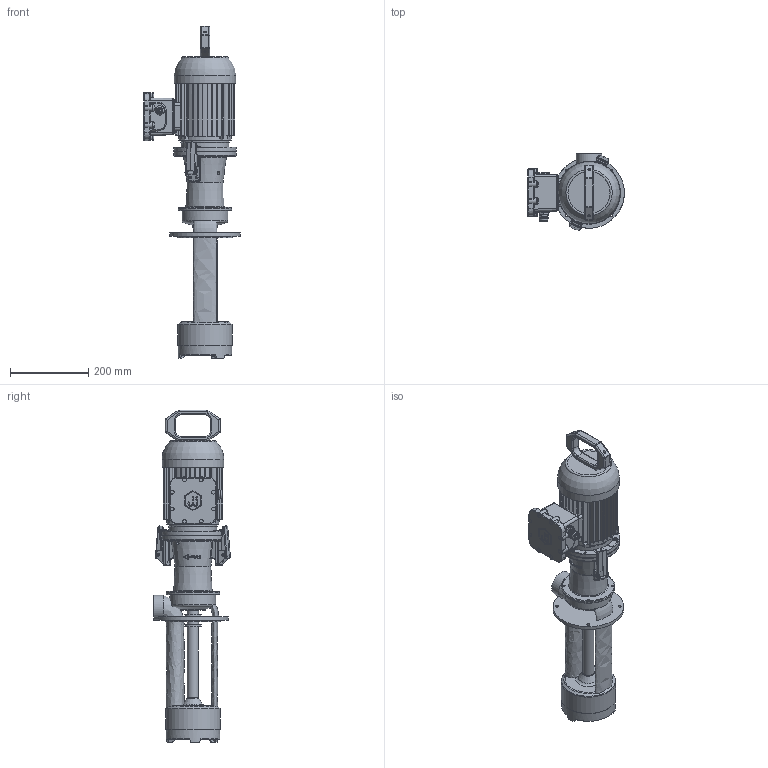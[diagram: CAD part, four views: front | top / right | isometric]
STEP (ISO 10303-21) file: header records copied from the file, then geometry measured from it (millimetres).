
FILE_DESCRIPTION(/* description */ ('Unknown'),/* implementation_level */ '2;1');
FILE_NAME(/* name */ 'EP EX 152-310',/* time_stamp */ '2025-06-03T08:34:34+03:00',/* author */ ('Unknown'),/* organization */ ('Unknown'),/* preprocessor_version */ 'ST-DEVELOPER v16.7',/* originating_system */ 'DEX',/* authorisation */ $);
FILE_SCHEMA (('AUTOMOTIVE_DESIGN {1 0 10303 214 3 1 1}'));
Length unit declared in the file: millimetre
Products named in the file (1): EP EX 152-310
Bounding box: 246.5 x 195.43 x 846.45 mm (x, y, z)
Volume: 8365422.8 mm3; surface area: 740299.6 mm2
Topology: 1 solids, 22 shells, 2297 faces, 6058 edges, 3779 vertices
Faces by surface type: cylinder 802, plane 730, bspline 404, torus 201, cone 113, sphere 47
Full cylindrical faces by diameter (mm): 3 x12, 3.242 x16, 4 x10, 4.134 x24, 4.9 x4, 5 x90, 5.3 x4, 5.5 x2, 5.7 x8, 6 x8, 7 x8, 8 x3, 9.5 x8, 12 x1, 13 x2, 13.962 x1, 16 x1, 18.348 x1, 18.376 x5, 19 x1, 20 x2, 21.8 x2, 28 x1, 29 x3, 30 x1, 42 x3, 44 x1, 48 x1, 62 x1, 73 x1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
Entity records: 109777 total; most frequent: CARTESIAN_POINT 43445, ORIENTED_EDGE 10866, DIRECTION 9982, EDGE_CURVE 5433, AXIS2_PLACEMENT_3D 4017, VERTEX_POINT 3586, FACE_BOUND 2697, EDGE_LOOP 2689
